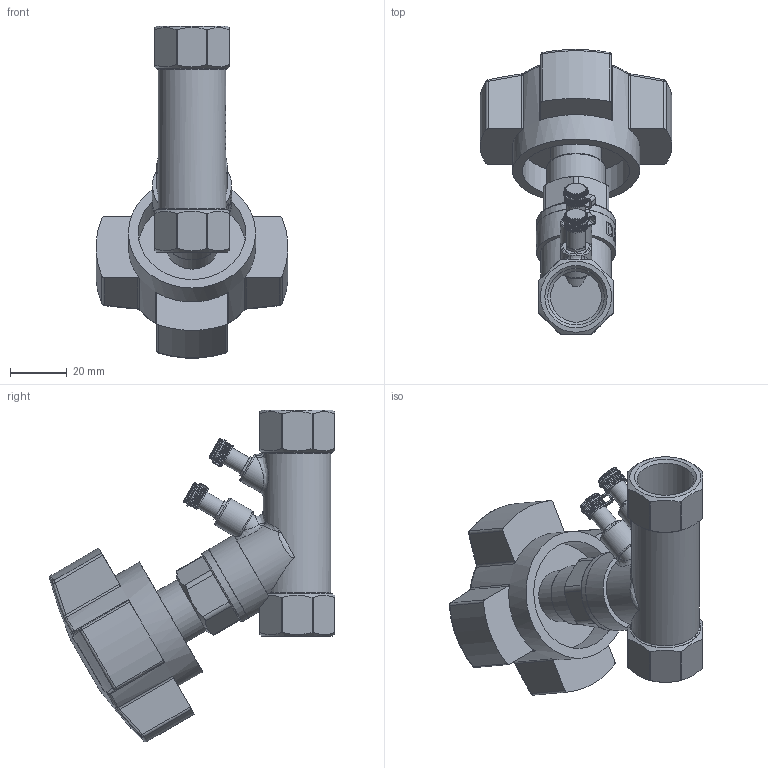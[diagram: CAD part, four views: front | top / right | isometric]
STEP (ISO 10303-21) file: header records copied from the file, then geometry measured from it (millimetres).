
FILE_DESCRIPTION(('STEP AP242'), '1');
FILE_NAME('VB0000P-T Êëàïàí áàëàíñèðîâî÷íûé DN.ru Äó20 Ðó16', '2026-04-26T17:21:28', ('R2D2'), (''), 'C3D Converter', 'C3D Toolkit', '');
FILE_SCHEMA(('AP242_MANAGED_MODEL_BASED_3D_ENGINEERING_MIM_LF { 1 0 10303 442 1 1 4 }'));
Length unit declared in the file: millimetre
Products named in the file (1): VB0000P-T
Bounding box: 67.83 x 100.85 x 117.44 mm (x, y, z)
Volume: 117620.2 mm3; surface area: 30314.6 mm2
Topology: 1 solids, 3 shells, 1239 faces, 3262 edges, 2068 vertices
Faces by surface type: plane 902, extrusion 121, cylinder 114, bspline 54, torus 20, cone 18, sphere 10
Full cylindrical faces by diameter (mm): 6.5 x2, 11 x1, 15 x1, 17.157 x1, 18 x2, 20 x2, 20.697 x1, 24 x1, 28 x2, 38 x1, 45 x1
Entity records: 64902 total; most frequent: CARTESIAN_POINT 26101, ORIENTED_EDGE 6442, DIRECTION 5028, EDGE_CURVE 3221, VECTOR 2108, VERTEX_POINT 2067, LINE 1987, AXIS2_PLACEMENT_3D 1460
